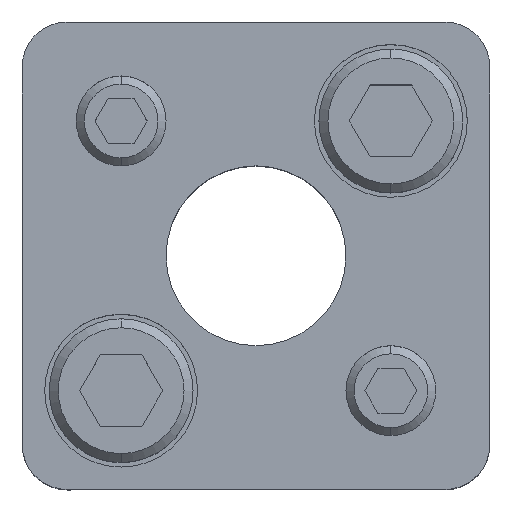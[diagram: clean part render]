
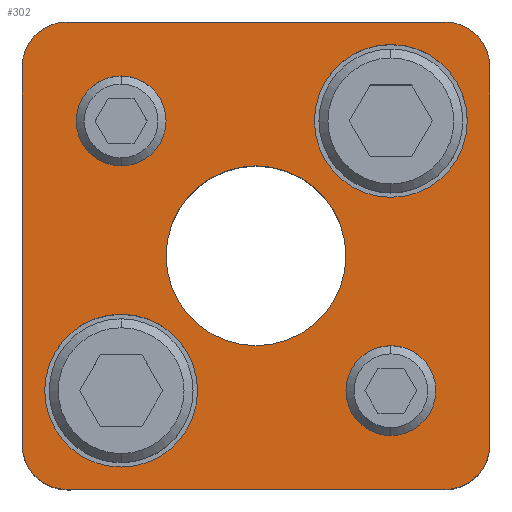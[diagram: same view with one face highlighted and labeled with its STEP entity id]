
A CAD part, top view. The second image highlights one B-rep face of the part: STEP entity #302.
In plain terms, the highlighted planar face has unit normal (0, 0, 1).
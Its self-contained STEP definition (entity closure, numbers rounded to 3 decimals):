
#161=PLANE('',#2460);
#224=FACE_BOUND('',#627,.T.);
#225=FACE_BOUND('',#628,.T.);
#226=FACE_BOUND('',#629,.T.);
#227=FACE_BOUND('',#630,.T.);
#228=FACE_BOUND('',#631,.T.);
#229=FACE_BOUND('',#632,.T.);
#302=ADVANCED_FACE('',(#224,#225,#226,#227,#228,#229),#161,.T.);
#627=EDGE_LOOP('',(#1277,#1278,#1279,#1280,#1281,#1282,#1283,#1284));
#628=EDGE_LOOP('',(#1285,#1286));
#629=EDGE_LOOP('',(#1287,#1288));
#630=EDGE_LOOP('',(#1289,#1290));
#631=EDGE_LOOP('',(#1291,#1292));
#632=EDGE_LOOP('',(#1293,#1294));
#779=LINE('',#3601,#949);
#780=LINE('',#3605,#950);
#781=LINE('',#3609,#951);
#782=LINE('',#3613,#952);
#949=VECTOR('',#2877,1.);
#950=VECTOR('',#2880,1.);
#951=VECTOR('',#2883,1.);
#952=VECTOR('',#2886,1.);
#1277=ORIENTED_EDGE('',*,*,#2005,.T.);
#1278=ORIENTED_EDGE('',*,*,#2006,.T.);
#1279=ORIENTED_EDGE('',*,*,#2007,.T.);
#1280=ORIENTED_EDGE('',*,*,#2008,.T.);
#1281=ORIENTED_EDGE('',*,*,#2009,.T.);
#1282=ORIENTED_EDGE('',*,*,#2010,.T.);
#1283=ORIENTED_EDGE('',*,*,#2011,.T.);
#1284=ORIENTED_EDGE('',*,*,#2012,.T.);
#1285=ORIENTED_EDGE('',*,*,#2013,.F.);
#1286=ORIENTED_EDGE('',*,*,#2014,.F.);
#1287=ORIENTED_EDGE('',*,*,#2015,.F.);
#1288=ORIENTED_EDGE('',*,*,#2016,.F.);
#1289=ORIENTED_EDGE('',*,*,#1991,.F.);
#1290=ORIENTED_EDGE('',*,*,#1987,.F.);
#1291=ORIENTED_EDGE('',*,*,#1985,.F.);
#1292=ORIENTED_EDGE('',*,*,#1981,.F.);
#1293=ORIENTED_EDGE('',*,*,#2017,.T.);
#1294=ORIENTED_EDGE('',*,*,#2018,.T.);
#1755=VERTEX_POINT('',#3549);
#1756=VERTEX_POINT('',#3550);
#1759=VERTEX_POINT('',#3562);
#1760=VERTEX_POINT('',#3563);
#1771=VERTEX_POINT('',#3599);
#1772=VERTEX_POINT('',#3600);
#1773=VERTEX_POINT('',#3602);
#1774=VERTEX_POINT('',#3604);
#1775=VERTEX_POINT('',#3606);
#1776=VERTEX_POINT('',#3608);
#1777=VERTEX_POINT('',#3610);
#1778=VERTEX_POINT('',#3612);
#1779=VERTEX_POINT('',#3615);
#1780=VERTEX_POINT('',#3616);
#1781=VERTEX_POINT('',#3619);
#1782=VERTEX_POINT('',#3620);
#1783=VERTEX_POINT('',#3623);
#1784=VERTEX_POINT('',#3624);
#1981=EDGE_CURVE('',#1755,#1756,#2255,.T.);
#1985=EDGE_CURVE('',#1756,#1755,#2257,.T.);
#1987=EDGE_CURVE('',#1759,#1760,#2259,.T.);
#1991=EDGE_CURVE('',#1760,#1759,#2261,.T.);
#2005=EDGE_CURVE('',#1771,#1772,#2271,.T.);
#2006=EDGE_CURVE('',#1772,#1773,#779,.T.);
#2007=EDGE_CURVE('',#1773,#1774,#2272,.T.);
#2008=EDGE_CURVE('',#1774,#1775,#780,.T.);
#2009=EDGE_CURVE('',#1775,#1776,#2273,.T.);
#2010=EDGE_CURVE('',#1776,#1777,#781,.T.);
#2011=EDGE_CURVE('',#1777,#1778,#2274,.T.);
#2012=EDGE_CURVE('',#1778,#1771,#782,.T.);
#2013=EDGE_CURVE('',#1779,#1780,#2275,.T.);
#2014=EDGE_CURVE('',#1780,#1779,#2276,.T.);
#2015=EDGE_CURVE('',#1781,#1782,#2277,.T.);
#2016=EDGE_CURVE('',#1782,#1781,#2278,.T.);
#2017=EDGE_CURVE('',#1783,#1784,#2279,.T.);
#2018=EDGE_CURVE('',#1784,#1783,#2280,.T.);
#2255=CIRCLE('',#2424,5.);
#2257=CIRCLE('',#2427,5.);
#2259=CIRCLE('',#2431,5.);
#2261=CIRCLE('',#2434,5.);
#2271=CIRCLE('',#2450,5.);
#2272=CIRCLE('',#2451,5.);
#2273=CIRCLE('',#2452,5.);
#2274=CIRCLE('',#2453,5.);
#2275=CIRCLE('',#2454,8.5);
#2276=CIRCLE('',#2455,8.5);
#2277=CIRCLE('',#2456,8.5);
#2278=CIRCLE('',#2457,8.5);
#2279=CIRCLE('',#2458,10.);
#2280=CIRCLE('',#2459,10.);
#2424=AXIS2_PLACEMENT_3D('',#3548,#2815,#2816);
#2427=AXIS2_PLACEMENT_3D('',#3557,#2823,#2824);
#2431=AXIS2_PLACEMENT_3D('',#3561,#2831,#2832);
#2434=AXIS2_PLACEMENT_3D('',#3570,#2839,#2840);
#2450=AXIS2_PLACEMENT_3D('',#3598,#2875,#2876);
#2451=AXIS2_PLACEMENT_3D('',#3603,#2878,#2879);
#2452=AXIS2_PLACEMENT_3D('',#3607,#2881,#2882);
#2453=AXIS2_PLACEMENT_3D('',#3611,#2884,#2885);
#2454=AXIS2_PLACEMENT_3D('',#3614,#2887,#2888);
#2455=AXIS2_PLACEMENT_3D('',#3617,#2889,#2890);
#2456=AXIS2_PLACEMENT_3D('',#3618,#2891,#2892);
#2457=AXIS2_PLACEMENT_3D('',#3621,#2893,#2894);
#2458=AXIS2_PLACEMENT_3D('',#3622,#2895,#2896);
#2459=AXIS2_PLACEMENT_3D('',#3625,#2897,#2898);
#2460=AXIS2_PLACEMENT_3D('',#3626,#2899,#2900);
#2815=DIRECTION('',(0.,0.,1.));
#2816=DIRECTION('',(-1.,0.,0.));
#2823=DIRECTION('',(0.,0.,1.));
#2824=DIRECTION('',(1.,0.,0.));
#2831=DIRECTION('',(0.,0.,1.));
#2832=DIRECTION('',(-1.,0.,0.));
#2839=DIRECTION('',(0.,0.,1.));
#2840=DIRECTION('',(1.,0.,0.));
#2875=DIRECTION('',(0.,0.,1.));
#2876=DIRECTION('',(-0.707,0.707,0.));
#2877=DIRECTION('',(0.,1.,0.));
#2878=DIRECTION('',(0.,0.,1.));
#2879=DIRECTION('',(-0.707,-0.707,0.));
#2880=DIRECTION('',(-1.,0.,0.));
#2881=DIRECTION('',(0.,0.,1.));
#2882=DIRECTION('',(0.707,-0.707,0.));
#2883=DIRECTION('',(0.,-1.,0.));
#2884=DIRECTION('',(0.,0.,1.));
#2885=DIRECTION('',(0.707,0.707,0.));
#2886=DIRECTION('',(1.,0.,0.));
#2887=DIRECTION('',(0.,0.,1.));
#2888=DIRECTION('',(1.,0.,0.));
#2889=DIRECTION('',(0.,0.,1.));
#2890=DIRECTION('',(-1.,0.,0.));
#2891=DIRECTION('',(0.,0.,1.));
#2892=DIRECTION('',(1.,0.,0.));
#2893=DIRECTION('',(0.,0.,1.));
#2894=DIRECTION('',(-1.,0.,0.));
#2895=DIRECTION('',(0.,0.,-1.));
#2896=DIRECTION('',(-1.,0.,0.));
#2897=DIRECTION('',(0.,0.,-1.));
#2898=DIRECTION('',(1.,0.,0.));
#2899=DIRECTION('',(0.,0.,1.));
#2900=DIRECTION('',(-1.,0.,0.));
#3548=CARTESIAN_POINT('',(15.,-15.,30.));
#3549=CARTESIAN_POINT('',(15.,-20.,30.));
#3550=CARTESIAN_POINT('',(15.,-10.,30.));
#3557=CARTESIAN_POINT('',(15.,-15.,30.));
#3561=CARTESIAN_POINT('',(-15.,15.,30.));
#3562=CARTESIAN_POINT('',(-15.,10.,30.));
#3563=CARTESIAN_POINT('',(-15.,20.,30.));
#3570=CARTESIAN_POINT('',(-15.,15.,30.));
#3598=CARTESIAN_POINT('',(21.,-21.,30.));
#3599=CARTESIAN_POINT('',(21.,-26.,30.));
#3600=CARTESIAN_POINT('',(26.,-21.,30.));
#3601=CARTESIAN_POINT('',(26.,21.,30.));
#3602=CARTESIAN_POINT('',(26.,21.,30.));
#3603=CARTESIAN_POINT('',(21.,21.,30.));
#3604=CARTESIAN_POINT('',(21.,26.,30.));
#3605=CARTESIAN_POINT('',(-21.,26.,30.));
#3606=CARTESIAN_POINT('',(-21.,26.,30.));
#3607=CARTESIAN_POINT('',(-21.,21.,30.));
#3608=CARTESIAN_POINT('',(-26.,21.,30.));
#3609=CARTESIAN_POINT('',(-26.,21.,30.));
#3610=CARTESIAN_POINT('',(-26.,-21.,30.));
#3611=CARTESIAN_POINT('',(-21.,-21.,30.));
#3612=CARTESIAN_POINT('',(-21.,-26.,30.));
#3613=CARTESIAN_POINT('',(-21.,-26.,30.));
#3614=CARTESIAN_POINT('',(15.,15.,30.));
#3615=CARTESIAN_POINT('',(15.,23.5,30.));
#3616=CARTESIAN_POINT('',(15.,6.5,30.));
#3617=CARTESIAN_POINT('',(15.,15.,30.));
#3618=CARTESIAN_POINT('',(-15.,-15.,30.));
#3619=CARTESIAN_POINT('',(-15.,-6.5,30.));
#3620=CARTESIAN_POINT('',(-15.,-23.5,30.));
#3621=CARTESIAN_POINT('',(-15.,-15.,30.));
#3622=CARTESIAN_POINT('',(0.,0.,30.));
#3623=CARTESIAN_POINT('',(0.,10.,30.));
#3624=CARTESIAN_POINT('',(0.,-10.,30.));
#3625=CARTESIAN_POINT('',(0.,0.,30.));
#3626=CARTESIAN_POINT('',(21.,-26.,30.));
